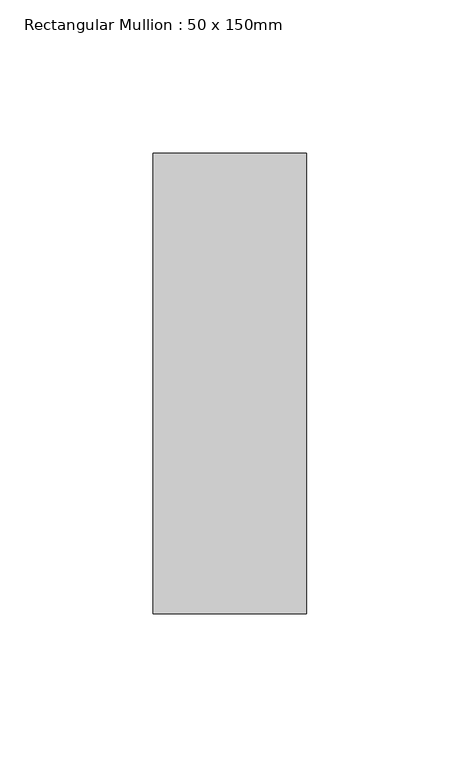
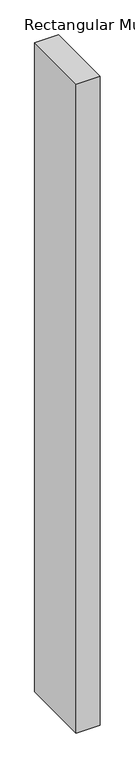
"""IFC4 building model written with IfcOpenShell, lengths in millimetres: member geometry, Rectangular Mullion : 50 x 150mm."""

from ifc_helpers import new_model, si_unit, frame, origin, place, context, project, spatial, polyline, outline, extrude, source, transform, mapped, element, save


def rectangular_mullion_50_x_150mm_801099e8(model_context):
    return source(origin(), model_context, "Body", "SweptSolid", [
        extrude(outline(polyline([(25.0, 75.0), (25.0, -75.0), (-25.0, -75.0), (-25.0, 75.0), (25.0, 75.0)])), frame((0.0, 0.0, -1429.8405292), z_axis=(0.0, 0.0, 1.0), x_axis=(1.0, 0.0, 0.0)), (0.0, 0.0, 1.0), 1429.8405292),
    ])


if __name__ == "__main__":
    model = new_model("IFC4")
    model_context = context("Model", 3, world=origin())
    ifc_project = project(units=[si_unit("LENGTHUNIT", "METRE", prefix="MILLI")], contexts=[model_context])
    site = spatial("IfcSite", under=ifc_project)
    building = spatial("IfcBuilding", under=site)
    placement = place(None, origin())
    rectangular_mullion_50_x_150mm_shape = rectangular_mullion_50_x_150mm_801099e8(model_context)
    element("IfcMember", 1, ObjectType="Rectangular Mullion : 50 x 150mm", at=placement, inside=building, context=model_context, shape_type="MappedRepresentation", body=[
        mapped(rectangular_mullion_50_x_150mm_shape, transform((0.0, 0.0, 0.0), x_axis=(1.0, 0.0, 0.0), y_axis=(0.0, 1.0, 0.0), z_axis=(0.0, 0.0, 1.0))),
    ])
    save(model, "model.ifc")
